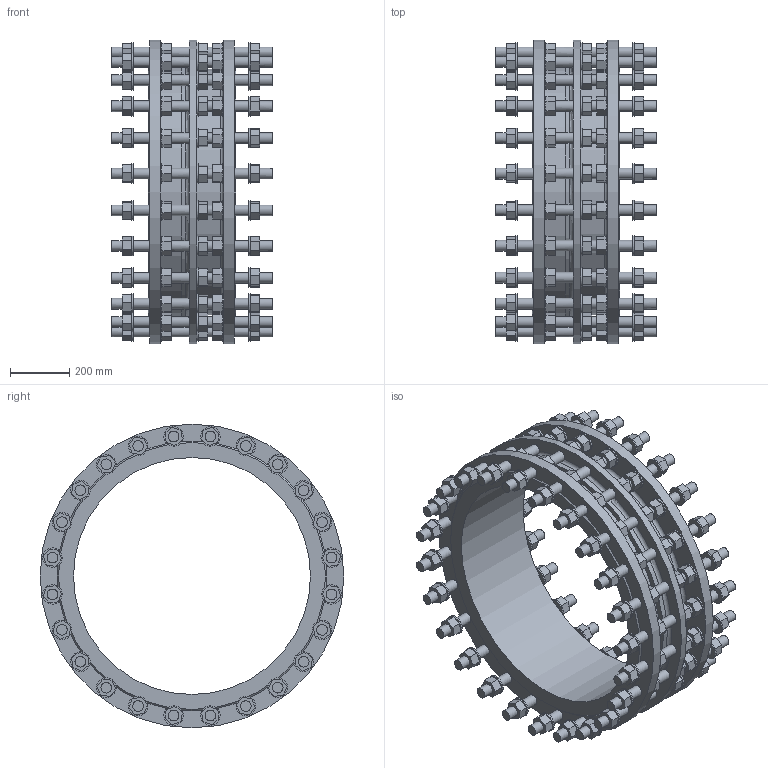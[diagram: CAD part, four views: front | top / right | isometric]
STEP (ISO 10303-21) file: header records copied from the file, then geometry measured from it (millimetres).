
FILE_DESCRIPTION (( 'STEP AP203' ), '1' );
FILE_NAME ('O_265_910_DN800_1XXXXX00_L=295_REV01.step', '2024-10-11T10:51:07', ( '' ), ( '' ), 'SwSTEP 2.0', 'SolidWorks 2022', '' );
FILE_SCHEMA (( 'CONFIG_CONTROL_DESIGN' ));
Length unit declared in the file: millimetre
Products named in the file (1): O_265_910_DN800_1XXXXX00_L=295_REV01
Bounding box: 545 x 1025 x 1025 mm (x, y, z)
Volume: 65100214.5 mm3; surface area: 4916357.4 mm2
Topology: 1 solids, 1 shells, 1381 faces, 3310 edges, 2254 vertices
Faces by surface type: plane 1104, cylinder 272, cone 3, torus 2
Full cylindrical faces by diameter (mm): 36 x144, 66 x120, 800 x1, 828 x1, 870 x1, 1025 x3
Entity records: 38524 total; most frequent: CARTESIAN_POINT 7573, DIRECTION 6181, ORIENTED_EDGE 5732, EDGE_CURVE 2866, VECTOR 2267, LINE 2267, VERTEX_POINT 2085, EDGE_LOOP 2077
